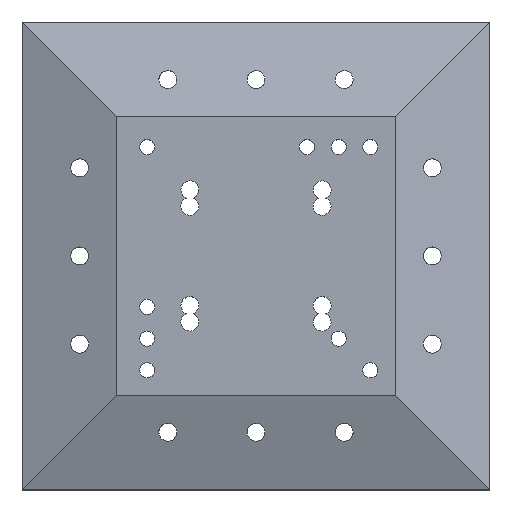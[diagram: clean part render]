
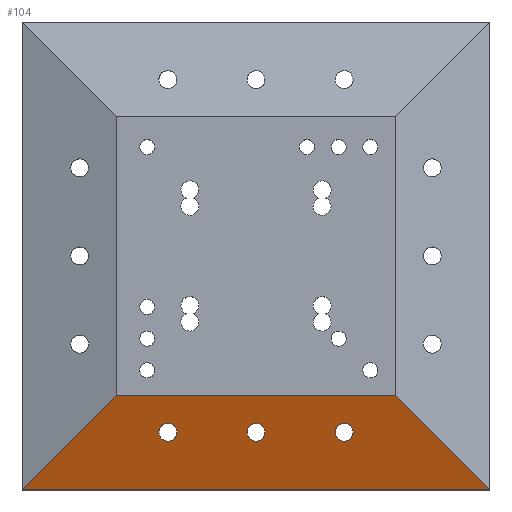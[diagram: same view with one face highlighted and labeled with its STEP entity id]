
A CAD part, top view. The second image highlights one B-rep face of the part: STEP entity #104.
In plain terms, the highlighted planar face has unit normal (0, -0.35, 0.937).
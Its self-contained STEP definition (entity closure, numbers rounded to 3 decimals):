
#104 = ADVANCED_FACE( '', ( #202, #203, #204, #205 ), #206, .F. );
#202 = FACE_BOUND( '', #388, .T. );
#203 = FACE_BOUND( '', #389, .T. );
#204 = FACE_BOUND( '', #390, .T. );
#205 = FACE_OUTER_BOUND( '', #391, .T. );
#206 = PLANE( '', #392 );
#388 = EDGE_LOOP( '', ( #719, #720, #721 ) );
#389 = EDGE_LOOP( '', ( #722, #723, #724 ) );
#390 = EDGE_LOOP( '', ( #725, #726, #727 ) );
#391 = EDGE_LOOP( '', ( #728, #729, #730, #731 ) );
#392 = AXIS2_PLACEMENT_3D( '', #732, #733, #734 );
#719 = ORIENTED_EDGE( '', *, *, #1236, .F. );
#720 = ORIENTED_EDGE( '', *, *, #1237, .F. );
#721 = ORIENTED_EDGE( '', *, *, #1121, .F. );
#722 = ORIENTED_EDGE( '', *, *, #1238, .F. );
#723 = ORIENTED_EDGE( '', *, *, #1239, .F. );
#724 = ORIENTED_EDGE( '', *, *, #1125, .F. );
#725 = ORIENTED_EDGE( '', *, *, #1240, .F. );
#726 = ORIENTED_EDGE( '', *, *, #1241, .F. );
#727 = ORIENTED_EDGE( '', *, *, #1129, .F. );
#728 = ORIENTED_EDGE( '', *, *, #1242, .F. );
#729 = ORIENTED_EDGE( '', *, *, #1243, .F. );
#730 = ORIENTED_EDGE( '', *, *, #1244, .F. );
#731 = ORIENTED_EDGE( '', *, *, #1245, .F. );
#732 = CARTESIAN_POINT( '', ( 169., -20.92, 4.19 ) );
#733 = DIRECTION( '', ( 0., 0.35, -0.937 ) );
#734 = DIRECTION( '', ( 0., -0.937, -0.35 ) );
#1121 = EDGE_CURVE( '', #1320, #1323, #1324, .T. );
#1125 = EDGE_CURVE( '', #1328, #1331, #1332, .T. );
#1129 = EDGE_CURVE( '', #1336, #1339, #1340, .T. );
#1236 = EDGE_CURVE( '', #1552, #1320, #1553, .T. );
#1237 = EDGE_CURVE( '', #1323, #1552, #1554, .T. );
#1238 = EDGE_CURVE( '', #1555, #1328, #1556, .T. );
#1239 = EDGE_CURVE( '', #1331, #1555, #1557, .T. );
#1240 = EDGE_CURVE( '', #1558, #1336, #1559, .T. );
#1241 = EDGE_CURVE( '', #1339, #1558, #1560, .T. );
#1242 = EDGE_CURVE( '', #1561, #1562, #1563, .T. );
#1243 = EDGE_CURVE( '', #1564, #1561, #1565, .T. );
#1244 = EDGE_CURVE( '', #1566, #1564, #1567, .T. );
#1245 = EDGE_CURVE( '', #1562, #1566, #1568, .T. );
#1320 = VERTEX_POINT( '', #1654 );
#1323 = VERTEX_POINT( '', #1658 );
#1324 = ELLIPSE( '', #1659, 3.47, 3.25 );
#1328 = VERTEX_POINT( '', #1664 );
#1331 = VERTEX_POINT( '', #1668 );
#1332 = ELLIPSE( '', #1669, 3.47, 3.25 );
#1336 = VERTEX_POINT( '', #1674 );
#1339 = VERTEX_POINT( '', #1678 );
#1340 = ELLIPSE( '', #1679, 3.47, 3.25 );
#1552 = VERTEX_POINT( '', #1944 );
#1553 = ELLIPSE( '', #1945, 3.47, 3.25 );
#1554 = ELLIPSE( '', #1946, 3.47, 3.25 );
#1555 = VERTEX_POINT( '', #1947 );
#1556 = ELLIPSE( '', #1948, 3.47, 3.25 );
#1557 = ELLIPSE( '', #1949, 3.47, 3.25 );
#1558 = VERTEX_POINT( '', #1950 );
#1559 = ELLIPSE( '', #1951, 3.47, 3.25 );
#1560 = ELLIPSE( '', #1952, 3.47, 3.25 );
#1561 = VERTEX_POINT( '', #1953 );
#1562 = VERTEX_POINT( '', #1954 );
#1563 = LINE( '', #1955, #1956 );
#1564 = VERTEX_POINT( '', #1957 );
#1565 = LINE( '', #1958, #1959 );
#1566 = VERTEX_POINT( '', #1960 );
#1567 = LINE( '', #1961, #1962 );
#1568 = LINE( '', #1963, #1964 );
#1654 = CARTESIAN_POINT( '', ( 3.25, 0., 12.012 ) );
#1658 = CARTESIAN_POINT( '', ( -3.25, 0., 12.012 ) );
#1659 = AXIS2_PLACEMENT_3D( '', #2067, #2068, #2069 );
#1664 = CARTESIAN_POINT( '', ( 35.25, 0., 12.012 ) );
#1668 = CARTESIAN_POINT( '', ( 28.75, 0., 12.012 ) );
#1669 = AXIS2_PLACEMENT_3D( '', #2075, #2076, #2077 );
#1674 = CARTESIAN_POINT( '', ( 67.25, 0., 12.012 ) );
#1678 = CARTESIAN_POINT( '', ( 60.75, 0., 12.012 ) );
#1679 = AXIS2_PLACEMENT_3D( '', #2083, #2084, #2085 );
#1944 = CARTESIAN_POINT( '', ( 0., -3.25, 10.797 ) );
#1945 = AXIS2_PLACEMENT_3D( '', #2298, #2299, #2300 );
#1946 = AXIS2_PLACEMENT_3D( '', #2301, #2302, #2303 );
#1947 = CARTESIAN_POINT( '', ( 32., -3.25, 10.797 ) );
#1948 = AXIS2_PLACEMENT_3D( '', #2304, #2305, #2306 );
#1949 = AXIS2_PLACEMENT_3D( '', #2307, #2308, #2309 );
#1950 = CARTESIAN_POINT( '', ( 64., -3.25, 10.797 ) );
#1951 = AXIS2_PLACEMENT_3D( '', #2310, #2311, #2312 );
#1952 = AXIS2_PLACEMENT_3D( '', #2313, #2314, #2315 );
#1953 = CARTESIAN_POINT( '', ( -52.92, -20.92, 4.19 ) );
#1954 = CARTESIAN_POINT( '', ( -18.658, 13.342, 17. ) );
#1955 = CARTESIAN_POINT( '', ( 52.439, 84.439, 43.582 ) );
#1956 = VECTOR( '', #2316, 1. );
#1957 = CARTESIAN_POINT( '', ( 116.92, -20.92, 4.19 ) );
#1958 = CARTESIAN_POINT( '', ( 142.96, -20.92, 4.19 ) );
#1959 = VECTOR( '', #2317, 1. );
#1960 = CARTESIAN_POINT( '', ( 82.658, 13.342, 17. ) );
#1961 = CARTESIAN_POINT( '', ( 84.711, 11.289, 16.232 ) );
#1962 = VECTOR( '', #2318, 1. );
#1963 = CARTESIAN_POINT( '', ( 84.5, 13.342, 17. ) );
#1964 = VECTOR( '', #2319, 1. );
#2067 = CARTESIAN_POINT( '', ( 0., 0., 12.012 ) );
#2068 = DIRECTION( '', ( 0., -0.35, 0.937 ) );
#2069 = DIRECTION( '', ( 0., 0.937, 0.35 ) );
#2075 = CARTESIAN_POINT( '', ( 32., 0., 12.012 ) );
#2076 = DIRECTION( '', ( 0., -0.35, 0.937 ) );
#2077 = DIRECTION( '', ( 0., 0.937, 0.35 ) );
#2083 = CARTESIAN_POINT( '', ( 64., 0., 12.012 ) );
#2084 = DIRECTION( '', ( 0., -0.35, 0.937 ) );
#2085 = DIRECTION( '', ( 0., 0.937, 0.35 ) );
#2298 = CARTESIAN_POINT( '', ( 0., 0., 12.012 ) );
#2299 = DIRECTION( '', ( 0., -0.35, 0.937 ) );
#2300 = DIRECTION( '', ( 0., 0.937, 0.35 ) );
#2301 = CARTESIAN_POINT( '', ( 0., 0., 12.012 ) );
#2302 = DIRECTION( '', ( 0., -0.35, 0.937 ) );
#2303 = DIRECTION( '', ( 0., 0.937, 0.35 ) );
#2304 = CARTESIAN_POINT( '', ( 32., 0., 12.012 ) );
#2305 = DIRECTION( '', ( 0., -0.35, 0.937 ) );
#2306 = DIRECTION( '', ( 0., 0.937, 0.35 ) );
#2307 = CARTESIAN_POINT( '', ( 32., 0., 12.012 ) );
#2308 = DIRECTION( '', ( 0., -0.35, 0.937 ) );
#2309 = DIRECTION( '', ( 0., 0.937, 0.35 ) );
#2310 = CARTESIAN_POINT( '', ( 64., 0., 12.012 ) );
#2311 = DIRECTION( '', ( 0., -0.35, 0.937 ) );
#2312 = DIRECTION( '', ( 0., 0.937, 0.35 ) );
#2313 = CARTESIAN_POINT( '', ( 64., 0., 12.012 ) );
#2314 = DIRECTION( '', ( 0., -0.35, 0.937 ) );
#2315 = DIRECTION( '', ( 0., 0.937, 0.35 ) );
#2316 = DIRECTION( '', ( 0.684, 0.684, 0.256 ) );
#2317 = DIRECTION( '', ( -1., 0., 0. ) );
#2318 = DIRECTION( '', ( 0.684, -0.684, -0.256 ) );
#2319 = DIRECTION( '', ( 1., 0., 0. ) );
